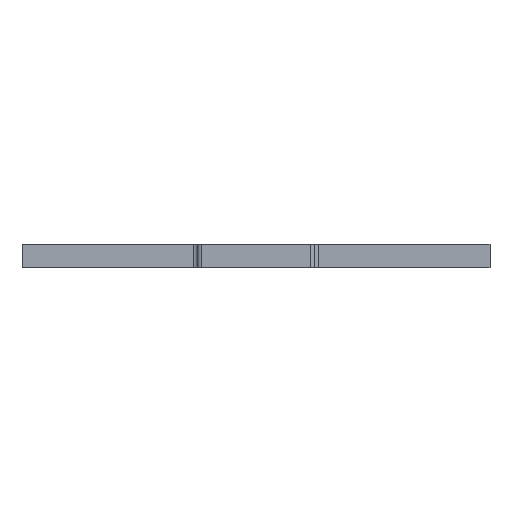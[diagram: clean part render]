
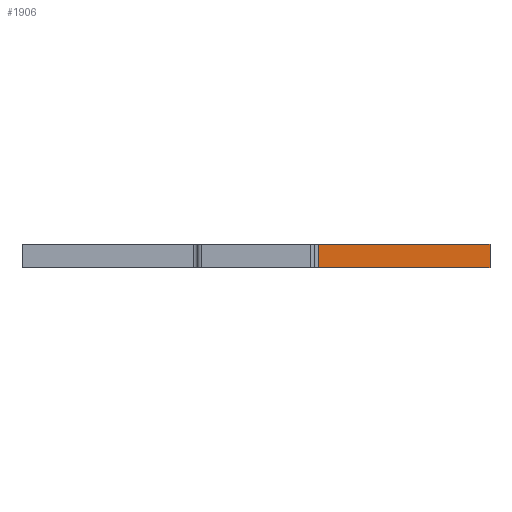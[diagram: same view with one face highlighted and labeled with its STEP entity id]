
A CAD part, front view. The second image highlights one B-rep face of the part: STEP entity #1906.
In plain terms, the highlighted planar face has unit normal (0, -1, 0).
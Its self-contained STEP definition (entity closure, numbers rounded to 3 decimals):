
#218=FACE_OUTER_BOUND('',#315,.T.);
#315=EDGE_LOOP('',(#1746,#1747,#1748,#1749));
#388=LINE('',#2794,#595);
#451=LINE('',#3027,#658);
#500=LINE('',#3133,#707);
#523=LINE('',#3181,#730);
#595=VECTOR('',#2224,10.);
#658=VECTOR('',#2407,10.);
#707=VECTOR('',#2542,10.);
#730=VECTOR('',#2615,10.);
#791=VERTEX_POINT('',#2791);
#792=VERTEX_POINT('',#2793);
#901=VERTEX_POINT('',#3024);
#902=VERTEX_POINT('',#3026);
#999=EDGE_CURVE('',#791,#792,#388,.T.);
#1116=EDGE_CURVE('',#901,#902,#451,.T.);
#1172=EDGE_CURVE('',#792,#901,#500,.T.);
#1195=EDGE_CURVE('',#791,#902,#523,.T.);
#1746=ORIENTED_EDGE('',*,*,#1172,.F.);
#1747=ORIENTED_EDGE('',*,*,#999,.F.);
#1748=ORIENTED_EDGE('',*,*,#1195,.T.);
#1749=ORIENTED_EDGE('',*,*,#1116,.F.);
#1811=PLANE('',#2081);
#1906=ADVANCED_FACE('',(#218),#1811,.T.);
#2081=AXIS2_PLACEMENT_3D('',#3185,#2622,#2623);
#2224=DIRECTION('',(-1.,0.,0.));
#2407=DIRECTION('',(1.,0.,0.));
#2542=DIRECTION('',(0.,0.,1.));
#2615=DIRECTION('',(0.,0.,1.));
#2622=DIRECTION('center_axis',(0.,-1.,0.));
#2623=DIRECTION('ref_axis',(1.,0.,0.));
#2791=CARTESIAN_POINT('',(30.,-17.321,-1.5));
#2793=CARTESIAN_POINT('',(8.,-17.321,-1.5));
#2794=CARTESIAN_POINT('',(-30.,-17.321,-1.5));
#3024=CARTESIAN_POINT('',(8.,-17.321,1.5));
#3026=CARTESIAN_POINT('',(30.,-17.321,1.5));
#3027=CARTESIAN_POINT('',(-30.,-17.321,1.5));
#3133=CARTESIAN_POINT('',(8.,-17.321,0.));
#3181=CARTESIAN_POINT('',(30.,-17.321,0.));
#3185=CARTESIAN_POINT('Origin',(-30.,-17.321,0.));
